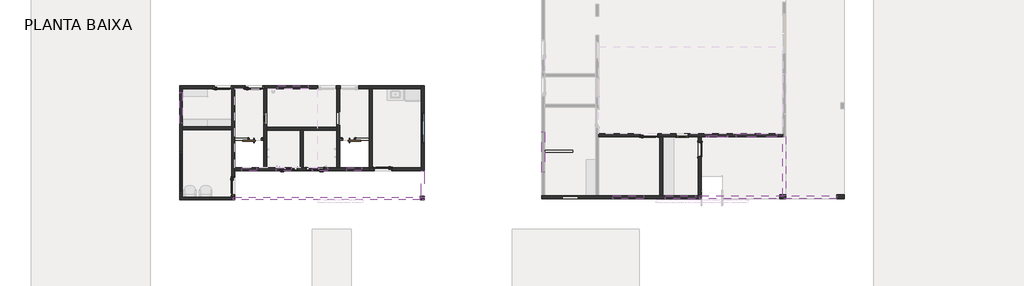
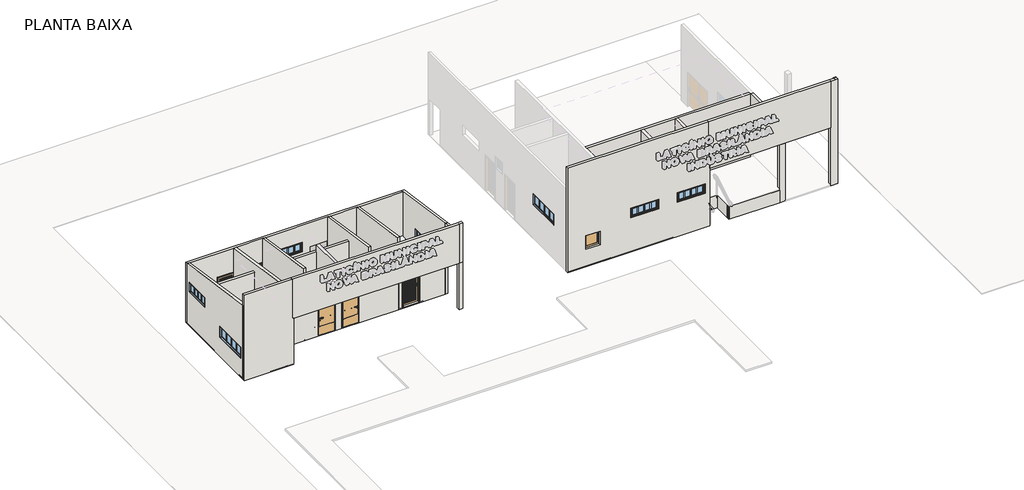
# One storey, part 1 of 4: 32 walls, 14 doors, 12 windows.
"""IFC4 building model written with IfcOpenShell, lengths in millimetres."""

from ifc_helpers import new_model, si_unit, frame, origin, place, context, project, spatial, polyline, outline, extrude, faceted_brep, transform, mapped, element, save
from components import door_47245ebf, see_type_catalog_3550771c, door_0_70x2_10_2_033ef500, door_0_70x2_10_2_77146840, fr_pvc_panneau_plein_103_x_210_100_2_a151caea, fr_pvc_panneau_plein_63_x_210_60_2_2560e39d, fr_pvc_panneau_plein_63_x_210_60_2_9b27eb45, fr_pvc_panneau_plein_83_x_210_80_f0693e7c, p14_porta_interna_pne_0_90x2_10_b06f21c3, p14_porta_interna_pne_0_90x2_10_6fbece7b, window_3d062184, window_6059a996, window_ed8a4b66, window_13409327

model = new_model("IFC4")

# Units and contexts
model_context = context("Model", 3, world=origin())
ifc_project = project(units=[si_unit("LENGTHUNIT", "METRE", prefix="MILLI")], contexts=[model_context])

# Site, building, storey
site = spatial("IfcSite", under=ifc_project)
building = spatial("IfcBuilding", under=site)
storey = spatial("IfcBuildingStorey", under=building, Name="PLANTA BAIXA", Elevation=150.0)

# Doors
placement = place(None, origin())
door_shape = door_47245ebf(model_context)
element("IfcDoor", 1, ObjectType="PORTA VENEZIANA PARAMÉTRICA : .VENEZIANA 90X210 2", at=placement, inside=storey, context=model_context, shape_type="MappedRepresentation", body=[
    mapped(door_shape, transform((1526.8201839, -768.2411617, 150.0), x_axis=(-1.0, 0.0, 0.0), y_axis=(0.0, -1.0, 0.0), z_axis=(0.0, 0.0, 1.0))),
])
element("IfcDoor", 2, ObjectType="PORTA VENEZIANA PARAMÉTRICA : .VENEZIANA 90X210 2", at=placement, inside=storey, context=model_context, shape_type="MappedRepresentation", body=[
    mapped(door_shape, transform((-19648.1798161, -3353.2411617, 150.0), x_axis=(0.0, 1.0, 0.0), y_axis=(-1.0, 0.0, 0.0), z_axis=(0.0, 0.0, 1.0))),
])
element("IfcDoor", 3, ObjectType="PORTA VENEZIANA PARAMÉTRICA : .VENEZIANA 90X210 2", at=placement, inside=storey, context=model_context, shape_type="MappedRepresentation", body=[
    mapped(door_shape, transform((-12023.1798161, -2478.2411617, 150.0), x_axis=(1.0, 0.0, 0.0), y_axis=(0.0, 1.0, 0.0), z_axis=(0.0, 0.0, 1.0))),
])
element("IfcDoor", 4, ObjectType="PORTA VENEZIANA PARAMÉTRICA : VENEZIANA 80X210", at=placement, inside=storey, context=model_context, shape_type="MappedRepresentation", body=[
    mapped(door_shape, transform((-20173.1798161, 1675.6280604, 150.0), x_axis=(-1.0, 0.0, 0.0), y_axis=(0.0, -1.0, 0.0), z_axis=(0.0, 0.0, 1.0))),
])
element("IfcDoor", 5, ObjectType="PORTA VENEZIANA PARAMÉTRICA : VENEZIANA 80X210", at=placement, inside=storey, context=model_context, shape_type="MappedRepresentation", body=[
    mapped(door_shape, transform((-18573.1798161, 1675.6280604, 150.0), x_axis=(-1.0, 0.0, 0.0), y_axis=(0.0, -1.0, 0.0), z_axis=(0.0, 0.0, 1.0))),
])
see_type_catalog_shape = see_type_catalog_3550771c(model_context)
element("IfcDoor", 6, ObjectType="M_Porta-De_Correr-Pormade-Porta_Lisa : (See Type Catalog)", at=placement, inside=storey, context=model_context, shape_type="MappedRepresentation", body=[
    mapped(see_type_catalog_shape, transform((4101.8201839, -1483.2411617, 900.0), x_axis=(0.0, 1.0, 0.0), y_axis=(-1.0, 0.0, 0.0), z_axis=(0.0, 0.0, 1.0))),
])
door_0_70x2_10_2_shape = door_0_70x2_10_2_033ef500(model_context)
element("IfcDoor", 7, ObjectType="Porta de correr com revestimento - 1 Painel com trilho de aço inoxidável : 0.70X2.10 2", at=placement, inside=storey, context=model_context, shape_type="MappedRepresentation", body=[
    mapped(door_0_70x2_10_2_shape, transform((-18523.1798161, -953.2411617, 150.0), x_axis=(-1.0, 0.0, 0.0), y_axis=(0.0, -1.0, 0.0), z_axis=(0.0, 0.0, 1.0))),
])
door_0_70x2_10_2_2_shape = door_0_70x2_10_2_77146840(model_context)
element("IfcDoor", 8, ObjectType="Porta de correr com revestimento - 1 Painel com trilho de aço inoxidável : 0.70X2.10 2", at=placement, inside=storey, context=model_context, shape_type="MappedRepresentation", body=[
    mapped(door_0_70x2_10_2_2_shape, transform((-13773.1798161, -953.2411617, 150.0), x_axis=(1.0, 0.0, 0.0), y_axis=(0.0, 1.0, 0.0), z_axis=(0.0, 0.0, 1.0))),
])
fr_pvc_panneau_plein_103_x_210_100_2_shape = fr_pvc_panneau_plein_103_x_210_100_2_a151caea(model_context)
element("IfcDoor", 9, ObjectType="FR_PVC Panneau Plein : 103 x 210 - (100) 2", at=placement, inside=storey, context=model_context, shape_type="MappedRepresentation", body=[
    mapped(fr_pvc_panneau_plein_103_x_210_100_2_shape, transform((4991.8201839, -764.4475915, 1650.0), x_axis=(1.0, 0.0, 0.0), y_axis=(0.0, 1.0, 0.0), z_axis=(0.0, 0.0, 1.0))),
])
fr_pvc_panneau_plein_63_x_210_60_2_shape = fr_pvc_panneau_plein_63_x_210_60_2_2560e39d(model_context)
element("IfcDoor", 10, ObjectType="FR_PVC Panneau Plein : 63 x 210 - (60) 2", at=placement, inside=storey, context=model_context, shape_type="MappedRepresentation", body=[
    mapped(fr_pvc_panneau_plein_63_x_210_60_2_shape, transform((3211.8201839, -764.4475915, 1150.0), x_axis=(1.0, 0.0, 0.0), y_axis=(0.0, 1.0, 0.0), z_axis=(0.0, 0.0, 1.0))),
])
fr_pvc_panneau_plein_63_x_210_60_2_2_shape = fr_pvc_panneau_plein_63_x_210_60_2_9b27eb45(model_context)
element("IfcDoor", 11, ObjectType="FR_PVC Panneau Plein : 63 x 210 - (60) 2", at=placement, inside=storey, context=model_context, shape_type="MappedRepresentation", body=[
    mapped(fr_pvc_panneau_plein_63_x_210_60_2_2_shape, transform((-17994.3862459, 96.7588383, 950.0), x_axis=(0.0, 1.0, 0.0), y_axis=(-1.0, 0.0, 0.0), z_axis=(0.0, 0.0, 1.0))),
])
fr_pvc_panneau_plein_83_x_210_80_shape = fr_pvc_panneau_plein_83_x_210_80_f0693e7c(model_context)
element("IfcDoor", 12, ObjectType="FR_PVC Panneau Plein : 83 x 210 - (80)", at=placement, inside=storey, context=model_context, shape_type="MappedRepresentation", body=[
    mapped(fr_pvc_panneau_plein_83_x_210_80_shape, transform((-2473.1798161, -3917.0347319, 1150.0), x_axis=(1.0, 0.0, 0.0), y_axis=(0.0, 1.0, 0.0), z_axis=(0.0, 0.0, 1.0))),
])
p14_porta_interna_pne_0_90x2_10_shape = p14_porta_interna_pne_0_90x2_10_b06f21c3(model_context)
element("IfcDoor", 13, ObjectType="porta pne medida interna : P14 - Porta interna PNE 0.90x2.10", at=placement, inside=storey, context=model_context, shape_type="MappedRepresentation", body=[
    mapped(p14_porta_interna_pne_0_90x2_10_shape, transform((-16824.150302, -2478.2411617, 150.0), x_axis=(1.0, 0.0, 0.0), y_axis=(0.0, 1.0, 0.0), z_axis=(0.0, 0.0, 1.0))),
])
p14_porta_interna_pne_0_90x2_10_2_shape = p14_porta_interna_pne_0_90x2_10_6fbece7b(model_context)
element("IfcDoor", 14, ObjectType="porta pne medida interna : P14 - Porta interna PNE 0.90x2.10", at=placement, inside=storey, context=model_context, shape_type="MappedRepresentation", body=[
    mapped(p14_porta_interna_pne_0_90x2_10_2_shape, transform((-15472.2093302, -2478.2411617, 150.0), x_axis=(-1.0, 0.0, 0.0), y_axis=(0.0, -1.0, 0.0), z_axis=(0.0, 0.0, 1.0))),
])

# Walls
element("IfcWall", 15, ObjectType="PAREDE BÁSICA 15 cm REVEST/PINT", at=placement, inside=storey, context=model_context, shape_type="Brep", body=[
    faceted_brep([(-22373.1798161, 1600.6280604, 100.0), (-22223.1798161, 1600.6280604, 100.0), (-19723.1798161, 1600.6280604, 100.0), (-19573.1798161, 1600.6280604, 100.0), (-18073.1798161, 1600.6280604, 100.0), (-17923.1798161, 1600.6280604, 100.0), (-14373.1798161, 1600.6280604, 100.0), (-14223.1798161, 1600.6280604, 100.0), (-12723.1798161, 1600.6280604, 100.0), (-12573.1798161, 1600.6280604, 100.0), (-10073.1798161, 1600.6280604, 100.0), (-10073.1798161, 1600.6280604, 3738.6139791), (-12573.1798161, 1600.6280604, 3738.6139791), (-12723.1798161, 1600.6280604, 3738.6139791), (-14223.1798161, 1600.6280604, 3738.6139791), (-14373.1798161, 1600.6280604, 3738.6139791), (-17923.1798161, 1600.6280604, 3738.6139791), (-18073.1798161, 1600.6280604, 3738.6139791), (-19573.1798161, 1600.6280604, 3738.6139791), (-19723.1798161, 1600.6280604, 3738.6139791), (-22223.1798161, 1600.6280604, 3738.6139791), (-22373.1798161, 1600.6280604, 3738.6139791), (-20648.1798161, 1600.6280604, 130.0), (-20648.1798161, 1600.6280604, 2275.0), (-19698.1798161, 1600.6280604, 2275.0), (-19698.1798161, 1600.6280604, 130.0), (-19048.1798161, 1600.6280604, 130.0), (-19048.1798161, 1600.6280604, 2275.0), (-18098.1798161, 1600.6280604, 2275.0), (-18098.1798161, 1600.6280604, 130.0), (-13248.1798161, 1600.6280604, 130.0), (-14198.1798161, 1600.6280604, 130.0), (-14198.1798161, 1600.6280604, 2275.0), (-13248.1798161, 1600.6280604, 2275.0), (-15348.1798161, 1600.6280604, 130.0), (-15348.1798161, 1600.6280604, 2275.0), (-14398.1798161, 1600.6280604, 2275.0), (-14398.1798161, 1600.6280604, 130.0), (-15813.1798161, 1600.6280604, 2150.0), (-17383.1798161, 1600.6280604, 2150.0), (-17383.1798161, 1600.6280604, 2720.0), (-15813.1798161, 1600.6280604, 2720.0), (-10073.1798161, 1750.6280604, 100.0), (-22373.1798161, 1750.6280604, 100.0), (-22373.1798161, 1750.6280604, 3716.1139791), (-10073.1798161, 1750.6280604, 3716.1139791), (-20648.1798161, 1750.6280604, 2275.0), (-20648.1798161, 1750.6280604, 130.0), (-19698.1798161, 1750.6280604, 130.0), (-19698.1798161, 1750.6280604, 2275.0), (-19048.1798161, 1750.6280604, 130.0), (-18098.1798161, 1750.6280604, 130.0), (-18098.1798161, 1750.6280604, 2275.0), (-19048.1798161, 1750.6280604, 2275.0), (-13248.1798161, 1750.6280604, 130.0), (-13248.1798161, 1750.6280604, 2275.0), (-14198.1798161, 1750.6280604, 2275.0), (-14198.1798161, 1750.6280604, 130.0), (-15348.1798161, 1750.6280604, 130.0), (-14398.1798161, 1750.6280604, 130.0), (-14398.1798161, 1750.6280604, 2275.0), (-15348.1798161, 1750.6280604, 2275.0), (-15813.1798161, 1750.6280604, 2150.0), (-15813.1798161, 1750.6280604, 2720.0), (-17383.1798161, 1750.6280604, 2720.0), (-17383.1798161, 1750.6280604, 2150.0)], [[[0, 1, 2, 3, 4, 5, 6, 7, 8, 9, 10, 11, 12, 13, 14, 15, 16, 17, 18, 19, 20, 21], [22, 23, 24, 25], [26, 27, 28, 29], [30, 31, 32, 33], [34, 35, 36, 37], [38, 39, 40, 41]], [[42, 43, 44, 45], [46, 47, 48, 49], [50, 51, 52, 53], [54, 55, 56, 57], [58, 59, 60, 61], [62, 63, 64, 65]], [[10, 9, 8, 7, 6, 5, 4, 3, 2, 1, 0, 43, 42]], [[11, 10, 42, 45]], [[0, 21, 44, 43]], [[22, 47, 46, 23]], [[23, 46, 49, 24]], [[24, 49, 48, 25]], [[47, 22, 25, 48]], [[27, 26, 50, 53]], [[28, 27, 53, 52]], [[29, 28, 52, 51]], [[26, 29, 51, 50]], [[55, 54, 30, 33]], [[56, 55, 33, 32]], [[57, 56, 32, 31]], [[54, 57, 31, 30]], [[35, 34, 58, 61]], [[36, 35, 61, 60]], [[37, 36, 60, 59]], [[34, 37, 59, 58]], [[63, 62, 38, 41]], [[64, 63, 41, 40]], [[65, 64, 40, 39]], [[62, 65, 39, 38]], [[21, 20, 19, 18, 17, 16, 15, 14, 13, 12, 11, 45, 44]]]),
])
element("IfcWall", 16, ObjectType="PAREDE BÁSICA 15 cm", at=placement, inside=storey, context=model_context, shape_type="Brep", body=[
    faceted_brep([(-9923.1798161, -2553.2411617, 4361.6943624), (-9923.1798161, -2553.2411617, 2900.0), (-9923.1798161, -2553.2411617, 100.0), (-9923.1798161, 1750.6280604, 100.0), (-9923.1798161, 1750.6280604, 3716.1139791), (-9923.1798161, -1154.3719396, 1250.0), (-9923.1798161, -1154.3719396, 2250.0), (-9923.1798161, 395.6280604, 2250.0), (-9923.1798161, 395.6280604, 1250.0), (-10073.1798161, -2553.2411617, 100.0), (-10073.1798161, -2553.2411617, 2900.0), (-10073.1798161, -2553.2411617, 4000.0), (-10073.1798161, -2553.2411617, 4361.6943624), (-10073.1798161, 1600.6280604, 3738.6139791), (-10073.1798161, 1750.6280604, 3716.1139791), (-10073.1798161, 1750.6280604, 100.0), (-10073.1798161, 1600.6280604, 100.0), (-10073.1798161, -2403.2411617, 100.0), (-10073.1798161, -1154.3719396, 1250.0), (-10073.1798161, 395.6280604, 1250.0), (-10073.1798161, 395.6280604, 2250.0), (-10073.1798161, -1154.3719396, 2250.0)], [[[0, 1, 2, 3, 4], [5, 6, 7, 8]], [[9, 10, 11, 12, 13, 14, 15, 16, 17], [18, 19, 20, 21]], [[3, 2, 9, 17, 16, 15]], [[4, 3, 15, 14]], [[6, 5, 18, 21]], [[7, 6, 21, 20]], [[8, 7, 20, 19]], [[5, 8, 19, 18]], [[0, 12, 11, 10, 9, 2, 1]], [[0, 4, 14, 13, 12]]]),
])
element("IfcWall", 17, ObjectType="PAREDE BÁSICA 15 cm", at=placement, inside=storey, context=model_context, shape_type="Brep", body=[
    faceted_brep([(-10073.1798161, -2403.2411617, 4000.0), (-10073.1798161, -2403.2411617, 100.0), (-12573.1798161, -2403.2411617, 100.0), (-12723.1798161, -2403.2411617, 100.0), (-12723.1798161, -2403.2411617, 3550.0), (-12723.1798161, -2403.2411617, 4000.0), (-11548.1798161, -2403.2411617, 130.0), (-11548.1798161, -2403.2411617, 2275.0), (-12498.1798161, -2403.2411617, 2275.0), (-12498.1798161, -2403.2411617, 130.0), (-10073.1798161, -2553.2411617, 100.0), (-10073.1798161, -2553.2411617, 4000.0), (-12723.1798161, -2553.2411617, 4000.0), (-12723.1798161, -2553.2411617, 3550.0), (-12723.1798161, -2553.2411617, 100.0), (-11548.1798161, -2553.2411617, 130.0), (-12498.1798161, -2553.2411617, 130.0), (-12498.1798161, -2553.2411617, 2275.0), (-11548.1798161, -2553.2411617, 2275.0)], [[[0, 1, 2, 3, 4, 5], [6, 7, 8, 9]], [[10, 11, 12, 13, 14], [15, 16, 17, 18]], [[3, 2, 1, 10, 14]], [[0, 5, 12, 11]], [[0, 11, 10, 1]], [[3, 14, 13, 12, 5, 4]], [[7, 6, 15, 18]], [[8, 7, 18, 17]], [[9, 8, 17, 16]], [[6, 9, 16, 15]]]),
])
element("IfcWall", 18, ObjectType="PAREDE BÁSICA 15 cm", at=placement, inside=storey, context=model_context, shape_type="Brep", body=[
    faceted_brep([(-12573.1798161, -2403.2411617, 100.0), (-12573.1798161, 1600.6280604, 100.0), (-12573.1798161, 1600.6280604, 3738.6139791), (-12573.1798161, -2403.2411617, 4339.1943624), (-12723.1798161, -2403.2411617, 100.0), (-12723.1798161, -2403.2411617, 4000.0), (-12723.1798161, -2403.2411617, 4339.1943624), (-12723.1798161, 1600.6280604, 3738.6139791), (-12723.1798161, 1600.6280604, 100.0), (-12723.1798161, -903.2411617, 100.0), (-12723.1798161, -1003.2411617, 100.0)], [[[0, 1, 2, 3]], [[4, 5, 6, 7, 8, 9, 10]], [[1, 0, 4, 10, 9, 8]], [[0, 3, 6, 5, 4]], [[2, 1, 8, 7]], [[3, 2, 7, 6]]]),
])
element("IfcWall", 19, ObjectType="PAREDE BÁSICA 15 cm", at=placement, inside=storey, context=model_context, shape_type="Brep", body=[
    faceted_brep([(-19723.1798161, 1600.6280604, 100.0), (-19723.1798161, -328.2411617, 100.0), (-19723.1798161, -478.2411617, 100.0), (-19723.1798161, -3903.2411617, 100.0), (-19723.1798161, -3903.2411617, 4564.1943624), (-19723.1798161, 1600.6280604, 3738.6139791), (-19723.1798161, -2878.2411617, 130.0), (-19723.1798161, -2878.2411617, 2275.0), (-19723.1798161, -3828.2411617, 2275.0), (-19723.1798161, -3828.2411617, 130.0), (-19573.1798161, 1600.6280604, 100.0), (-19573.1798161, 1600.6280604, 3738.6139791), (-19573.1798161, -3903.2411617, 4564.1943624), (-19573.1798161, -3903.2411617, 2900.0), (-19573.1798161, -3903.2411617, 100.0), (-19573.1798161, -2553.2411617, 100.0), (-19573.1798161, -2403.2411617, 100.0), (-19573.1798161, -1003.2411617, 100.0), (-19573.1798161, -903.2411617, 100.0), (-19573.1798161, -2878.2411617, 130.0), (-19573.1798161, -3828.2411617, 130.0), (-19573.1798161, -3828.2411617, 2275.0), (-19573.1798161, -2878.2411617, 2275.0)], [[[0, 1, 2, 3, 4, 5], [6, 7, 8, 9]], [[10, 11, 12, 13, 14, 15, 16, 17, 18], [19, 20, 21, 22]], [[3, 2, 1, 0, 10, 18, 17, 16, 15, 14]], [[0, 5, 11, 10]], [[3, 14, 13, 12, 4]], [[7, 6, 19, 22]], [[8, 7, 22, 21]], [[9, 8, 21, 20]], [[6, 9, 20, 19]], [[5, 4, 12, 11]]]),
])
element("IfcWall", 20, ObjectType="PAREDE BÁSICA 15 cm", at=placement, inside=storey, context=model_context, shape_type="Brep", body=[
    faceted_brep([(-19573.1798161, -3903.2411617, 100.0), (-19723.1798161, -3903.2411617, 100.0), (-22223.1798161, -3903.2411617, 100.0), (-22373.1798161, -3903.2411617, 100.0), (-22373.1798161, -3903.2411617, 4564.1943624), (-22373.1798161, -3903.2411617, 5250.0), (-19648.1798161, -3903.2411617, 5250.0), (-19648.1798161, -3903.2411617, 2900.0), (-19573.1798161, -3903.2411617, 2900.0), (-19573.1798161, -4053.2411617, 100.0), (-19573.1798161, -4053.2411617, 2900.0), (-19648.1798161, -4053.2411617, 2900.0), (-19648.1798161, -4053.2411617, 5250.0), (-22373.1798161, -4053.2411617, 5250.0), (-22373.1798161, -4053.2411617, 100.0)], [[[0, 1, 2, 3, 4, 5, 6, 7, 8]], [[9, 10, 11, 12, 13, 14]], [[3, 2, 1, 0, 9, 14]], [[6, 5, 13, 12]], [[5, 4, 3, 14, 13]], [[7, 11, 10, 8]], [[6, 12, 11, 7]], [[0, 8, 10, 9]]]),
])
element("IfcWall", 21, ObjectType="PAREDE BÁSICA 15 cm", at=placement, inside=storey, context=model_context, shape_type="Brep", body=[
    faceted_brep([(-22223.1798161, -3903.2411617, 100.0), (-22223.1798161, -478.2411617, 100.0), (-22223.1798161, -328.2411617, 100.0), (-22223.1798161, 1600.6280604, 100.0), (-22223.1798161, 1600.6280604, 3738.6139791), (-22223.1798161, -3903.2411617, 4564.1943624), (-22223.1798161, -3703.2411617, 1250.0), (-22223.1798161, -3703.2411617, 1920.0), (-22223.1798161, -1633.2411617, 1920.0), (-22223.1798161, -1633.2411617, 1250.0), (-22223.1798161, -151.3065507, 2150.0), (-22223.1798161, -151.3065507, 2720.0), (-22223.1798161, 1418.6934493, 2720.0), (-22223.1798161, 1418.6934493, 2150.0), (-22373.1798161, -3903.2411617, 100.0), (-22373.1798161, -3903.2411617, 4564.1943624), (-22373.1798161, 1600.6280604, 3738.6139791), (-22373.1798161, 1600.6280604, 100.0), (-22373.1798161, -3703.2411617, 1250.0), (-22373.1798161, -1633.2411617, 1250.0), (-22373.1798161, -1633.2411617, 1920.0), (-22373.1798161, -3703.2411617, 1920.0), (-22373.1798161, -151.3065507, 2150.0), (-22373.1798161, 1418.6934493, 2150.0), (-22373.1798161, 1418.6934493, 2720.0), (-22373.1798161, -151.3065507, 2720.0)], [[[0, 1, 2, 3, 4, 5], [6, 7, 8, 9], [10, 11, 12, 13]], [[14, 15, 16, 17], [18, 19, 20, 21], [22, 23, 24, 25]], [[3, 2, 1, 0, 14, 17]], [[4, 3, 17, 16]], [[0, 5, 15, 14]], [[7, 6, 18, 21]], [[8, 7, 21, 20]], [[9, 8, 20, 19]], [[6, 9, 19, 18]], [[11, 10, 22, 25]], [[12, 11, 25, 24]], [[13, 12, 24, 23]], [[10, 13, 23, 22]], [[5, 4, 16, 15]]]),
])
element("IfcWall", 22, ObjectType="PAREDE BÁSICA 15 cm", at=placement, inside=storey, context=model_context, shape_type="Brep", body=[
    faceted_brep([(-19573.1798161, -2553.2411617, 100.0), (-12723.1798161, -2553.2411617, 100.0), (-12723.1798161, -2553.2411617, 3550.0), (-19573.1798161, -2553.2411617, 3550.0), (-16344.150302, -2553.2411617, 150.0), (-17304.150302, -2553.2411617, 150.0), (-17304.150302, -2553.2411617, 2280.0), (-16344.150302, -2553.2411617, 2280.0), (-13858.1798161, -2553.2411617, 2350.0), (-13858.1798161, -2553.2411617, 2920.0), (-13088.1798161, -2553.2411617, 2920.0), (-13088.1798161, -2553.2411617, 2350.0), (-18438.1798161, -2553.2411617, 2350.0), (-19208.1798161, -2553.2411617, 2350.0), (-19208.1798161, -2553.2411617, 2920.0), (-18438.1798161, -2553.2411617, 2920.0), (-17458.1798161, -2553.2411617, 2350.0), (-17458.1798161, -2553.2411617, 2920.0), (-16688.1798161, -2553.2411617, 2920.0), (-16688.1798161, -2553.2411617, 2350.0), (-14838.1798161, -2553.2411617, 2350.0), (-15608.1798161, -2553.2411617, 2350.0), (-15608.1798161, -2553.2411617, 2920.0), (-14838.1798161, -2553.2411617, 2920.0), (-15952.2093302, -2553.2411617, 150.0), (-15952.2093302, -2553.2411617, 2280.0), (-14992.2093302, -2553.2411617, 2280.0), (-14992.2093302, -2553.2411617, 150.0), (-19573.1798161, -2403.2411617, 100.0), (-19573.1798161, -2403.2411617, 3550.0), (-12723.1798161, -2403.2411617, 3550.0), (-12723.1798161, -2403.2411617, 100.0), (-14223.1798161, -2403.2411617, 100.0), (-14373.1798161, -2403.2411617, 100.0), (-16073.1798161, -2403.2411617, 100.0), (-16223.1798161, -2403.2411617, 100.0), (-17923.1798161, -2403.2411617, 100.0), (-18073.1798161, -2403.2411617, 100.0), (-16344.150302, -2403.2411617, 150.0), (-16344.150302, -2403.2411617, 2280.0), (-17304.150302, -2403.2411617, 2280.0), (-17304.150302, -2403.2411617, 150.0), (-13858.1798161, -2403.2411617, 2350.0), (-13088.1798161, -2403.2411617, 2350.0), (-13088.1798161, -2403.2411617, 2920.0), (-13858.1798161, -2403.2411617, 2920.0), (-18438.1798161, -2403.2411617, 2350.0), (-18438.1798161, -2403.2411617, 2920.0), (-19208.1798161, -2403.2411617, 2920.0), (-19208.1798161, -2403.2411617, 2350.0), (-17458.1798161, -2403.2411617, 2350.0), (-16688.1798161, -2403.2411617, 2350.0), (-16688.1798161, -2403.2411617, 2920.0), (-17458.1798161, -2403.2411617, 2920.0), (-14838.1798161, -2403.2411617, 2350.0), (-14838.1798161, -2403.2411617, 2920.0), (-15608.1798161, -2403.2411617, 2920.0), (-15608.1798161, -2403.2411617, 2350.0), (-15952.2093302, -2403.2411617, 150.0), (-14992.2093302, -2403.2411617, 150.0), (-14992.2093302, -2403.2411617, 2280.0), (-15952.2093302, -2403.2411617, 2280.0)], [[[0, 1, 2, 3], [4, 5, 6, 7], [8, 9, 10, 11], [12, 13, 14, 15], [16, 17, 18, 19], [20, 21, 22, 23], [24, 25, 26, 27]], [[28, 29, 30, 31, 32, 33, 34, 35, 36, 37], [38, 39, 40, 41], [42, 43, 44, 45], [46, 47, 48, 49], [50, 51, 52, 53], [54, 55, 56, 57], [58, 59, 60, 61]], [[1, 0, 28, 37, 36, 35, 34, 33, 32, 31]], [[3, 2, 30, 29]], [[2, 1, 31, 30]], [[0, 3, 29, 28]], [[39, 38, 4, 7]], [[40, 39, 7, 6]], [[41, 40, 6, 5]], [[38, 41, 5, 4]], [[9, 8, 42, 45]], [[10, 9, 45, 44]], [[11, 10, 44, 43]], [[8, 11, 43, 42]], [[47, 46, 12, 15]], [[48, 47, 15, 14]], [[49, 48, 14, 13]], [[46, 49, 13, 12]], [[17, 16, 50, 53]], [[18, 17, 53, 52]], [[19, 18, 52, 51]], [[16, 19, 51, 50]], [[55, 54, 20, 23]], [[56, 55, 23, 22]], [[57, 56, 22, 21]], [[54, 57, 21, 20]], [[25, 24, 58, 61]], [[26, 25, 61, 60]], [[27, 26, 60, 59]], [[24, 27, 59, 58]]]),
])
element("IfcWall", 23, ObjectType="PAREDE BÁSICA 15 cm", at=placement, inside=storey, context=model_context, shape_type="SweptSolid", body=[
    extrude(outline(polyline([(2226.8201839, -843.2411617), (2226.8201839, -3838.2411617), (2076.8201839, -3838.2411617), (2076.8201839, -843.2411617), (2226.8201839, -843.2411617)])), frame((0.0, 0.0, 100.0), z_axis=(0.0, 0.0, 1.0), x_axis=(1.0, 0.0, 0.0)), (0.0, 0.0, 1.0), 4600.0),
])
element("IfcWall", 24, ObjectType="PAREDE BÁSICA 15 cm", at=placement, inside=storey, context=model_context, shape_type="Brep", body=[
    faceted_brep([(-3923.1798161, -3988.2411617, 100.0), (4176.8201839, -3988.2411617, 100.0), (4176.8201839, -3988.2411617, 4700.0), (4101.8201839, -3988.2411617, 4700.0), (4101.8201839, -3988.2411617, 6400.0), (-3923.1798161, -3988.2411617, 6400.0), (1261.8201839, -3988.2411617, 2720.0), (1261.8201839, -3988.2411617, 2150.0), (-308.1798161, -3988.2411617, 2150.0), (-308.1798161, -3988.2411617, 2720.0), (2341.8201839, -3988.2411617, 2150.0), (2341.8201839, -3988.2411617, 2720.0), (3911.8201839, -3988.2411617, 2720.0), (3911.8201839, -3988.2411617, 2150.0), (-2883.1798161, -3988.2411617, 1960.0), (-2063.1798161, -3988.2411617, 1960.0), (-2063.1798161, -3988.2411617, 1150.0), (-2883.1798161, -3988.2411617, 1150.0), (4176.8201839, -3838.2411617, 100.0), (4026.8201839, -3838.2411617, 100.0), (2226.8201839, -3838.2411617, 100.0), (2076.8201839, -3838.2411617, 100.0), (-1023.1798161, -3838.2411617, 100.0), (-1173.1798161, -3838.2411617, 100.0), (-3773.1798161, -3838.2411617, 100.0), (-3923.1798161, -3838.2411617, 100.0), (-3923.1798161, -3838.2411617, 5040.0657477), (-3923.1798161, -3838.2411617, 6400.0), (4101.8201839, -3838.2411617, 6400.0), (4101.8201839, -3838.2411617, 4700.0), (4176.8201839, -3838.2411617, 4700.0), (4176.8201839, -3838.2411617, 3580.0), (1261.8201839, -3838.2411617, 2150.0), (1261.8201839, -3838.2411617, 2720.0), (-308.1798161, -3838.2411617, 2720.0), (-308.1798161, -3838.2411617, 2150.0), (2341.8201839, -3838.2411617, 2720.0), (2341.8201839, -3838.2411617, 2150.0), (3911.8201839, -3838.2411617, 2150.0), (3911.8201839, -3838.2411617, 2720.0), (-2063.1798161, -3838.2411617, 1150.0), (-2023.1798161, -3838.2411617, 1150.0), (-2023.1798161, -3838.2411617, 2000.0), (-2923.1798161, -3838.2411617, 2000.0), (-2923.1798161, -3838.2411617, 1150.0), (-2883.1798161, -3838.2411617, 1150.0), (-2883.1798161, -3888.2411617, 1960.0), (-2063.1798161, -3888.2411617, 1960.0), (-2063.1798161, -3888.2411617, 1150.0), (-2023.1798161, -3888.2411617, 1150.0), (-2923.1798161, -3888.2411617, 1150.0), (-2883.1798161, -3888.2411617, 1150.0), (-2923.1798161, -3888.2411617, 2000.0), (-2023.1798161, -3888.2411617, 2000.0)], [[[0, 1, 2, 3, 4, 5], [6, 7, 8, 9], [10, 11, 12, 13], [14, 15, 16, 17]], [[18, 19, 20, 21, 22, 23, 24, 25, 26, 27, 28, 29, 30, 31], [32, 33, 34, 35], [36, 37, 38, 39], [40, 41, 42, 43, 44, 45]], [[1, 0, 25, 24, 23, 22, 21, 20, 19, 18]], [[5, 4, 28, 27]], [[0, 5, 27, 26, 25]], [[33, 32, 7, 6]], [[34, 33, 6, 9]], [[35, 34, 9, 8]], [[32, 35, 8, 7]], [[11, 10, 37, 36]], [[12, 11, 36, 39]], [[13, 12, 39, 38]], [[10, 13, 38, 37]], [[28, 4, 3, 29]], [[29, 3, 2, 30]], [[1, 18, 31, 30, 2]], [[46, 47, 15, 14]], [[48, 49, 41, 40, 45, 44, 50, 51, 17, 16]], [[51, 46, 14, 17]], [[47, 48, 16, 15]], [[50, 44, 43, 52]], [[47, 46, 51, 50, 52, 53, 49, 48]], [[52, 43, 42, 53]], [[41, 49, 53, 42]]]),
])
element("IfcWall", 25, ObjectType="PAREDE BÁSICA 15 cm", at=placement, inside=storey, context=model_context, shape_type="Brep", body=[
    faceted_brep([(4176.8201839, -3838.2411617, 4700.0), (4176.8201839, -3838.2411617, 100.0), (4176.8201839, -2833.2411617, 100.0), (4176.8201839, -2683.2411617, 100.0), (4176.8201839, -843.2411617, 100.0), (4176.8201839, -843.2411617, 4700.0), (4176.8201839, -1083.2411617, 900.0), (4176.8201839, -1883.2411617, 900.0), (4176.8201839, -1883.2411617, 3060.0), (4176.8201839, -1083.2411617, 3060.0), (4026.8201839, -3838.2411617, 100.0), (4026.8201839, -3838.2411617, 4700.0), (4026.8201839, -843.2411617, 4700.0), (4026.8201839, -843.2411617, 100.0), (4026.8201839, -1083.2411617, 900.0), (4026.8201839, -1083.2411617, 3060.0), (4026.8201839, -1883.2411617, 3060.0), (4026.8201839, -1883.2411617, 900.0), (4101.8201839, -3838.2411617, 4700.0)], [[[0, 1, 2, 3, 4, 5], [6, 7, 8, 9]], [[10, 11, 12, 13], [14, 15, 16, 17]], [[4, 3, 2, 1, 10, 13]], [[0, 5, 12, 11, 18]], [[5, 4, 13, 12]], [[15, 14, 6, 9]], [[16, 15, 9, 8]], [[17, 16, 8, 7]], [[14, 17, 7, 6]], [[0, 18, 11, 10, 1]]]),
])
element("IfcWall", 26, ObjectType="PAREDE BÁSICA 15 cm", at=placement, inside=storey, context=model_context, shape_type="Brep", body=[
    faceted_brep([(8325.8682467, -693.2411617, 100.0), (-1023.1798161, -693.2411617, 100.0), (-1023.1798161, -693.2411617, 4700.0), (8325.8682467, -693.2411617, 4700.0), (1051.8201839, -693.2411617, 2275.0), (1051.8201839, -693.2411617, 130.0), (2001.8201839, -693.2411617, 130.0), (2001.8201839, -693.2411617, 2275.0), (5955.8682467, -693.2411617, 2820.0), (5955.8682467, -693.2411617, 2150.0), (8025.8682467, -693.2411617, 2150.0), (8025.8682467, -693.2411617, 2820.0), (5501.8201839, -693.2411617, 2460.0), (4481.8201839, -693.2411617, 2460.0), (4481.8201839, -693.2411617, 1650.0), (5501.8201839, -693.2411617, 1650.0), (3521.8201839, -693.2411617, 1960.0), (2901.8201839, -693.2411617, 1960.0), (2901.8201839, -693.2411617, 1150.0), (3521.8201839, -693.2411617, 1150.0), (-1023.1798161, -843.2411617, 100.0), (2076.8201839, -843.2411617, 100.0), (2226.8201839, -843.2411617, 100.0), (4026.8201839, -843.2411617, 100.0), (4176.8201839, -843.2411617, 100.0), (8325.8682467, -843.2411617, 100.0), (8325.8682467, -843.2411617, 4700.0), (4176.8201839, -843.2411617, 4700.0), (4026.8201839, -843.2411617, 4700.0), (2226.8201839, -843.2411617, 4700.0), (2076.8201839, -843.2411617, 4700.0), (-1023.1798161, -843.2411617, 4700.0), (1051.8201839, -843.2411617, 130.0), (1051.8201839, -843.2411617, 2275.0), (2001.8201839, -843.2411617, 2275.0), (2001.8201839, -843.2411617, 130.0), (5955.8682467, -843.2411617, 2150.0), (5955.8682467, -843.2411617, 2820.0), (8025.8682467, -843.2411617, 2820.0), (8025.8682467, -843.2411617, 2150.0), (4481.8201839, -843.2411617, 1650.0), (4441.8201839, -843.2411617, 1650.0), (4441.8201839, -843.2411617, 2500.0), (5541.8201839, -843.2411617, 2500.0), (5541.8201839, -843.2411617, 1650.0), (5501.8201839, -843.2411617, 1650.0), (2901.8201839, -843.2411617, 1150.0), (2861.8201839, -843.2411617, 1150.0), (2861.8201839, -843.2411617, 2000.0), (3561.8201839, -843.2411617, 2000.0), (3561.8201839, -843.2411617, 1150.0), (3521.8201839, -843.2411617, 1150.0), (5501.8201839, -793.2411617, 2460.0), (4481.8201839, -793.2411617, 2460.0), (4481.8201839, -793.2411617, 1650.0), (4441.8201839, -793.2411617, 1650.0), (5541.8201839, -793.2411617, 1650.0), (5501.8201839, -793.2411617, 1650.0), (4441.8201839, -793.2411617, 2500.0), (5541.8201839, -793.2411617, 2500.0), (3521.8201839, -793.2411617, 1960.0), (2901.8201839, -793.2411617, 1960.0), (2901.8201839, -793.2411617, 1150.0), (2861.8201839, -793.2411617, 1150.0), (3561.8201839, -793.2411617, 1150.0), (3521.8201839, -793.2411617, 1150.0), (2861.8201839, -793.2411617, 2000.0), (3561.8201839, -793.2411617, 2000.0)], [[[0, 1, 2, 3], [4, 5, 6, 7], [8, 9, 10, 11], [12, 13, 14, 15], [16, 17, 18, 19]], [[20, 21, 22, 23, 24, 25, 26, 27, 28, 29, 30, 31], [32, 33, 34, 35], [36, 37, 38, 39], [40, 41, 42, 43, 44, 45], [46, 47, 48, 49, 50, 51]], [[1, 0, 25, 24, 23, 22, 21, 20]], [[3, 2, 31, 30, 29, 28, 27, 26]], [[2, 1, 20, 31]], [[33, 32, 5, 4]], [[34, 33, 4, 7]], [[35, 34, 7, 6]], [[32, 35, 6, 5]], [[37, 36, 9, 8]], [[38, 37, 8, 11]], [[39, 38, 11, 10]], [[36, 39, 10, 9]], [[52, 53, 13, 12]], [[54, 55, 41, 40, 45, 44, 56, 57, 15, 14]], [[53, 54, 14, 13]], [[57, 52, 12, 15]], [[41, 55, 58, 42]], [[53, 52, 57, 56, 59, 58, 55, 54]], [[42, 58, 59, 43]], [[56, 44, 43, 59]], [[60, 61, 17, 16]], [[62, 63, 47, 46, 51, 50, 64, 65, 19, 18]], [[61, 62, 18, 17]], [[65, 60, 16, 19]], [[47, 63, 66, 48]], [[61, 60, 65, 64, 67, 66, 63, 62]], [[48, 66, 67, 49]], [[64, 50, 49, 67]], [[3, 26, 25, 0]]]),
])
element("IfcWall", 27, ObjectType=".PAREDE BÁSICA 20 cm 2", at=placement, inside=storey, context=model_context, shape_type="Brep", body=[
    faceted_brep([(8175.8682467, -3988.2411617, 100.0), (8475.8682467, -3988.2411617, 100.0), (8475.8682467, -3988.2411617, 3580.0), (8175.8682467, -3988.2411617, 3580.0), (8175.8682467, -3988.2411617, 850.0), (8175.8682467, -3788.2411617, 100.0), (8175.8682467, -3788.2411617, 3580.0), (8475.8682467, -3788.2411617, 3580.0), (8475.8682467, -3788.2411617, 850.0), (8475.8682467, -3788.2411617, 100.0), (8325.8682467, -3788.2411617, 100.0), (8175.8682467, -3838.2411617, 100.0)], [[[0, 1, 2, 3, 4]], [[5, 6, 7, 8, 9, 10]], [[1, 0, 11, 5, 10, 9]], [[0, 4, 3, 6, 5, 11]], [[2, 1, 9, 8, 7]], [[3, 2, 7, 6]]]),
])
element("IfcWall", 28, ObjectType=".PAREDE BÁSICA 20 cm 2", at=placement, inside=storey, context=model_context, shape_type="Brep", body=[
    faceted_brep([(11083.1602892, -3988.2411617, 100.0), (11476.8201839, -3988.2411617, 100.0), (11476.8201839, -3988.2411617, 6400.0), (11326.8201839, -3988.2411617, 6400.0), (11083.1602892, -3988.2411617, 6400.0), (11083.1602892, -3788.2411617, 100.0), (11083.1602892, -3788.2411617, 5101.5489842), (11326.8201839, -3788.2411617, 5065.0), (11326.8201839, -3788.2411617, 6400.0), (11476.8201839, -3788.2411617, 6400.0), (11476.8201839, -3788.2411617, 5050.0), (11476.8201839, -3788.2411617, 3950.0), (11476.8201839, -3788.2411617, 100.0), (11083.1602892, -3838.2411617, 6400.0), (11083.1602892, -3838.2411617, 5101.5489842), (11326.8201839, -3838.2411617, 6400.0), (11326.8201839, -3838.2411617, 5065.0), (11476.8201839, -3838.2411617, 6400.0)], [[[0, 1, 2, 3, 4]], [[5, 6, 7, 8, 9, 10, 11, 12]], [[1, 0, 5, 12]], [[0, 4, 13, 14, 6, 5]], [[15, 8, 7, 16]], [[4, 3, 15, 13]], [[13, 15, 16, 14]], [[17, 9, 8, 15]], [[3, 2, 17, 15]], [[16, 7, 6, 14]], [[2, 1, 12, 11, 10, 9, 17]]]),
])
element("IfcWall", 29, ObjectType="PAREDE BÁSICA 15 cm", at=placement, inside=storey, context=model_context, shape_type="Brep", body=[
    faceted_brep([(-10129.232617, -4053.2411617, 2900.0), (-9923.1798161, -4053.2411617, 2900.0), (-9923.1798161, -4053.2411617, 5250.0), (-10129.232617, -4053.2411617, 5250.0), (-10129.232617, -3903.2411617, 2900.0), (-10129.232617, -3903.2411617, 5250.0), (-9923.1798161, -3903.2411617, 5250.0), (-9923.1798161, -3903.2411617, 4564.1943624), (-9923.1798161, -3903.2411617, 2900.0), (-10073.1798161, -3903.2411617, 2900.0)], [[[0, 1, 2, 3]], [[4, 5, 6, 7, 8, 9]], [[1, 0, 4, 9, 8]], [[3, 2, 6, 5]], [[0, 3, 5, 4]], [[2, 1, 8, 7, 6]]]),
])
element("IfcWall", 30, ObjectType="PAREDE BÁSICA 15 cm", at=placement, inside=storey, context=model_context, shape_type="SweptSolid", body=[
    extrude(outline(polyline([(8325.8682467, -3788.2411617), (8325.8682467, -843.2411617), (8475.8682467, -843.2411617), (8475.8682467, -3788.2411617), (8325.8682467, -3788.2411617)])), frame((0.0, 0.0, 100.0), z_axis=(0.0, 0.0, 1.0), x_axis=(1.0, 0.0, 0.0)), (0.0, 0.0, 1.0), 750.0),
])
element("IfcWall", 31, ObjectType="PAREDE BÁSICA 15 cm", at=placement, inside=storey, context=model_context, shape_type="Brep", body=[
    faceted_brep([(8175.8682467, -3838.2411617, 100.0), (5426.8201839, -3838.2411617, 100.0), (5276.8201839, -3838.2411617, 100.0), (5276.8201839, -3838.2411617, 850.0), (5426.8201839, -3838.2411617, 850.0), (8175.8682467, -3838.2411617, 850.0), (8175.8682467, -3988.2411617, 100.0), (8175.8682467, -3988.2411617, 850.0), (5276.8201839, -3988.2411617, 850.0), (5276.8201839, -3988.2411617, 100.0)], [[[0, 1, 2, 3, 4, 5]], [[6, 7, 8, 9]], [[2, 1, 0, 6, 9]], [[0, 5, 7, 6]], [[5, 4, 3, 8, 7]], [[3, 2, 9, 8]]]),
])
element("IfcWall", 32, ObjectType="PAREDE BÁSICA 15 cm", at=placement, inside=storey, context=model_context, shape_type="Brep", body=[
    faceted_brep([(-19648.1798161, -4053.2411617, 5250.0), (-19648.1798161, -4053.2411617, 2900.0), (-19573.1798161, -4053.2411617, 2900.0), (-10129.232617, -4053.2411617, 2900.0), (-10129.232617, -4053.2411617, 5250.0), (-19648.1798161, -3903.2411617, 2900.0), (-19648.1798161, -3903.2411617, 5250.0), (-10129.232617, -3903.2411617, 5250.0), (-10129.232617, -3903.2411617, 2900.0), (-19573.1798161, -3903.2411617, 2900.0)], [[[0, 1, 2, 3, 4]], [[5, 6, 7, 8, 9]], [[3, 2, 1, 5, 9, 8]], [[4, 3, 8, 7]], [[0, 4, 7, 6]], [[0, 6, 5, 1]]]),
])
element("IfcWall", 33, ObjectType="PAREDE BÁSICA 15 cm", at=placement, inside=storey, context=model_context, shape_type="SweptSolid", body=[
    extrude(outline(polyline([(-3903.2411617, 2900.0), (-3903.2411617, 4564.1943624), (-2553.2411617, 4361.6943624), (-2553.2411617, 2900.0), (-3903.2411617, 2900.0)])), frame((-10073.1798161, 0.0, 0.0), z_axis=(1.0, 0.0, 0.0), x_axis=(0.0, 1.0, 0.0)), (0.0, 0.0, 1.0), 150.0),
])
element("IfcWall", 34, ObjectType=".PAREDE BÁSICA 20 cm 2", at=placement, inside=storey, context=model_context, shape_type="Brep", body=[
    faceted_brep([(-10129.232617, -4053.2411617, 2900.0), (-10129.232617, -4053.2411617, 100.0), (-9923.1798161, -4053.2411617, 100.0), (-9923.1798161, -4053.2411617, 2900.0), (-10129.232617, -3853.2411617, 100.0), (-10129.232617, -3853.2411617, 2900.0), (-9923.1798161, -3853.2411617, 2900.0), (-9923.1798161, -3853.2411617, 100.0), (-10129.232617, -3903.2411617, 2900.0)], [[[0, 1, 2, 3]], [[4, 5, 6, 7]], [[2, 1, 4, 7]], [[3, 2, 7, 6]], [[0, 8, 5, 4, 1]], [[0, 3, 6, 5, 8]]]),
])
element("IfcWall", 35, ObjectType="PAREDE BÁSICA 15 cm", at=placement, inside=storey, context=model_context, shape_type="Brep", body=[
    faceted_brep([(4176.8201839, -3988.2411617, 3580.0), (11083.1602892, -3988.2411617, 3580.0), (11083.1602892, -3988.2411617, 6400.0), (4101.8201839, -3988.2411617, 6400.0), (4101.8201839, -3988.2411617, 4700.0), (4176.8201839, -3988.2411617, 4700.0), (4176.8201839, -3838.2411617, 3580.0), (4176.8201839, -3838.2411617, 4700.0), (4101.8201839, -3838.2411617, 4700.0), (4101.8201839, -3838.2411617, 6400.0), (11083.1602892, -3838.2411617, 6400.0), (11083.1602892, -3838.2411617, 5101.5489842), (11083.1602892, -3838.2411617, 3580.0)], [[[0, 1, 2, 3, 4, 5]], [[6, 7, 8, 9, 10, 11, 12]], [[1, 0, 6, 12]], [[2, 1, 12, 11, 10]], [[3, 2, 10, 9]], [[4, 3, 9, 8]], [[4, 8, 7, 5]], [[0, 5, 7, 6]]]),
])
element("IfcWall", 36, ObjectType="PAREDE BÁSICA 15 cm", at=placement, inside=storey, context=model_context, shape_type="SweptSolid", body=[
    extrude(outline(polyline([(8475.8682467, -843.2411617), (8475.8682467, -3838.2411617), (8325.8682467, -3838.2411617), (8325.8682467, -843.2411617), (8475.8682467, -843.2411617)])), frame((0.0, 0.0, 3650.0), z_axis=(0.0, 0.0, 1.0), x_axis=(1.0, 0.0, 0.0)), (0.0, 0.0, 1.0), 1050.0),
])
element("IfcWall", 37, ObjectType="PAREDE BÁSICA 15 cm", at=placement, inside=storey, context=model_context, shape_type="Brep", body=[
    faceted_brep([(4176.8201839, -2833.2411617, 100.0), (5276.8201839, -2833.2411617, 100.0), (5426.8201839, -2833.2411617, 100.0), (5426.8201839, -2833.2411617, 850.0), (5276.8201839, -2833.2411617, 850.0), (4176.8201839, -2833.2411617, 850.0), (4176.8201839, -2683.2411617, 100.0), (4176.8201839, -2683.2411617, 850.0), (5426.8201839, -2683.2411617, 850.0), (5426.8201839, -2683.2411617, 100.0)], [[[0, 1, 2, 3, 4, 5]], [[6, 7, 8, 9]], [[2, 1, 0, 6, 9]], [[0, 5, 7, 6]], [[3, 2, 9, 8]], [[5, 4, 3, 8, 7]]]),
])
element("IfcWall", 38, ObjectType="PAREDE BÁSICA 15 cm", at=placement, inside=storey, context=model_context, shape_type="SweptSolid", body=[
    extrude(outline(polyline([(5276.8201839, -3838.2411617), (5276.8201839, -2833.2411617), (5426.8201839, -2833.2411617), (5426.8201839, -3838.2411617), (5276.8201839, -3838.2411617)])), frame((0.0, 0.0, 100.0), z_axis=(0.0, 0.0, 1.0), x_axis=(1.0, 0.0, 0.0)), (0.0, 0.0, 1.0), 750.0),
])
element("IfcWall", 39, ObjectType="PAREDE BÁSICA 10 cm 2", at=placement, inside=storey, context=model_context, shape_type="SweptSolid", body=[
    extrude(outline(polyline([(-2348.1798161, -1633.2411617), (-3773.1798161, -1633.2411617), (-3773.1798161, -1533.2411617), (-2348.1798161, -1533.2411617), (-2348.1798161, -1633.2411617)])), frame((0.0, 0.0, 100.0), z_axis=(0.0, 0.0, 1.0), x_axis=(1.0, 0.0, 0.0)), (0.0, 0.0, 1.0), 850.0),
])
element("IfcWall", 40, ObjectType="PAREDE BÁSICA 15 cm", at=placement, inside=storey, context=model_context, shape_type="Brep", body=[
    faceted_brep([(-14223.1798161, -2403.2411617, 100.0), (-14223.1798161, -1003.2411617, 100.0), (-14223.1798161, -903.2411617, 100.0), (-14223.1798161, 1600.6280604, 100.0), (-14223.1798161, 1600.6280604, 3738.6139791), (-14223.1798161, -2403.2411617, 4339.1943624), (-14223.1798161, -213.2411617, 950.0), (-14223.1798161, -253.2411617, 950.0), (-14223.1798161, -253.2411617, 1800.0), (-14223.1798161, 446.7588383, 1800.0), (-14223.1798161, 446.7588383, 950.0), (-14223.1798161, 406.7588383, 950.0), (-14373.1798161, 1600.6280604, 100.0), (-14373.1798161, -353.2411617, 100.0), (-14373.1798161, -503.2411617, 100.0), (-14373.1798161, -2403.2411617, 100.0), (-14373.1798161, -2403.2411617, 4339.1943624), (-14373.1798161, 1600.6280604, 3738.6139791), (-14373.1798161, 406.7588383, 1760.0), (-14373.1798161, -213.2411617, 1760.0), (-14373.1798161, -213.2411617, 950.0), (-14373.1798161, 406.7588383, 950.0), (-14273.1798161, 406.7588383, 1760.0), (-14273.1798161, -213.2411617, 1760.0), (-14273.1798161, -213.2411617, 950.0), (-14273.1798161, -253.2411617, 950.0), (-14273.1798161, 446.7588383, 950.0), (-14273.1798161, 406.7588383, 950.0), (-14273.1798161, -253.2411617, 1800.0), (-14273.1798161, 446.7588383, 1800.0)], [[[0, 1, 2, 3, 4, 5], [6, 7, 8, 9, 10, 11]], [[12, 13, 14, 15, 16, 17], [18, 19, 20, 21]], [[3, 2, 1, 0, 15, 14, 13, 12]], [[4, 3, 12, 17]], [[0, 5, 16, 15]], [[22, 23, 19, 18]], [[24, 25, 7, 6, 11, 10, 26, 27, 21, 20]], [[23, 24, 20, 19]], [[27, 22, 18, 21]], [[7, 25, 28, 8]], [[23, 22, 27, 26, 29, 28, 25, 24]], [[8, 28, 29, 9]], [[26, 10, 9, 29]], [[5, 4, 17, 16]]]),
])
element("IfcWall", 41, ObjectType="PAREDE BÁSICA 15 cm", at=placement, inside=storey, context=model_context, shape_type="SweptSolid", body=[
    extrude(outline(polyline([(-16073.1798161, -503.2411617), (-16073.1798161, -2403.2411617), (-16223.1798161, -2403.2411617), (-16223.1798161, -503.2411617), (-16073.1798161, -503.2411617)])), frame((0.0, 0.0, 100.0), z_axis=(0.0, 0.0, 1.0), x_axis=(1.0, 0.0, 0.0)), (0.0, 0.0, 1.0), 3900.0),
])
element("IfcWall", 42, ObjectType="PAREDE BÁSICA 15 cm", at=placement, inside=storey, context=model_context, shape_type="SweptSolid", body=[
    extrude(outline(polyline([(-22223.1798161, -328.2411617), (-19723.1798161, -328.2411617), (-19723.1798161, -478.2411617), (-22223.1798161, -478.2411617), (-22223.1798161, -328.2411617)])), frame((0.0, 0.0, 100.0), z_axis=(0.0, 0.0, 1.0), x_axis=(1.0, 0.0, 0.0)), (0.0, 0.0, 1.0), 3450.0),
])
element("IfcWall", 43, ObjectType="PAREDE BÁSICA 15 cm", at=placement, inside=storey, context=model_context, shape_type="Brep", body=[
    faceted_brep([(-17923.1798161, -2403.2411617, 100.0), (-17923.1798161, -503.2411617, 100.0), (-17923.1798161, -353.2411617, 100.0), (-17923.1798161, 1600.6280604, 100.0), (-17923.1798161, 1600.6280604, 3738.6139791), (-17923.1798161, -2403.2411617, 4339.1943624), (-17923.1798161, -213.2411617, 1760.0), (-17923.1798161, 406.7588383, 1760.0), (-17923.1798161, 406.7588383, 950.0), (-17923.1798161, -213.2411617, 950.0), (-18073.1798161, 1600.6280604, 100.0), (-18073.1798161, -903.2411617, 100.0), (-18073.1798161, -1003.2411617, 100.0), (-18073.1798161, -2403.2411617, 100.0), (-18073.1798161, -2403.2411617, 4339.1943624), (-18073.1798161, 1600.6280604, 3738.6139791), (-18073.1798161, 406.7588383, 950.0), (-18073.1798161, 446.7588383, 950.0), (-18073.1798161, 446.7588383, 1800.0), (-18073.1798161, -253.2411617, 1800.0), (-18073.1798161, -253.2411617, 950.0), (-18073.1798161, -213.2411617, 950.0), (-18023.1798161, -213.2411617, 1760.0), (-18023.1798161, 406.7588383, 1760.0), (-18023.1798161, 406.7588383, 950.0), (-18023.1798161, 446.7588383, 950.0), (-18023.1798161, -253.2411617, 950.0), (-18023.1798161, -213.2411617, 950.0), (-18023.1798161, -253.2411617, 1800.0), (-18023.1798161, 446.7588383, 1800.0)], [[[0, 1, 2, 3, 4, 5], [6, 7, 8, 9]], [[10, 11, 12, 13, 14, 15], [16, 17, 18, 19, 20, 21]], [[3, 2, 1, 0, 13, 12, 11, 10]], [[4, 3, 10, 15]], [[0, 5, 14, 13]], [[22, 23, 7, 6]], [[24, 25, 17, 16, 21, 20, 26, 27, 9, 8]], [[27, 22, 6, 9]], [[23, 24, 8, 7]], [[26, 20, 19, 28]], [[23, 22, 27, 26, 28, 29, 25, 24]], [[28, 19, 18, 29]], [[17, 25, 29, 18]], [[5, 4, 15, 14]]]),
])
element("IfcWall", 44, ObjectType="PAREDE BÁSICA 15 cm", at=placement, inside=storey, context=model_context, shape_type="Brep", body=[
    faceted_brep([(-17923.1798161, -503.2411617, 100.0), (-16223.1798161, -503.2411617, 100.0), (-16073.1798161, -503.2411617, 100.0), (-14373.1798161, -503.2411617, 100.0), (-14373.1798161, -503.2411617, 3550.0), (-17923.1798161, -503.2411617, 3550.0), (-17923.1798161, -353.2411617, 100.0), (-17923.1798161, -353.2411617, 3550.0), (-14373.1798161, -353.2411617, 3550.0), (-14373.1798161, -353.2411617, 100.0)], [[[0, 1, 2, 3, 4, 5]], [[6, 7, 8, 9]], [[3, 2, 1, 0, 6, 9]], [[5, 4, 8, 7]], [[4, 3, 9, 8]], [[0, 5, 7, 6]]]),
])
element("IfcWall", 45, ObjectType="PAREDE BÁSICA 10 cm 2", at=placement, inside=storey, context=model_context, shape_type="SweptSolid", body=[
    extrude(outline(polyline([(100.0, -19573.1798161), (100.0, -18073.1798161), (950.0, -18073.1798161), (950.0, -18173.1798161), (125.0, -18173.1798161), (125.0, -18873.1798161), (950.0, -18873.1798161), (950.0, -19573.1798161), (100.0, -19573.1798161)])), frame((0.0, -1003.2411617, 0.0), z_axis=(0.0, 1.0, 0.0), x_axis=(0.0, 0.0, 1.0)), (0.0, 0.0, 1.0), 100.0),
])
element("IfcWall", 46, ObjectType="PAREDE BÁSICA 10 cm 2", at=placement, inside=storey, context=model_context, shape_type="SweptSolid", body=[
    extrude(outline(polyline([(100.0, -14223.1798161), (100.0, -12723.1798161), (950.0, -12723.1798161), (950.0, -13423.1798161), (125.0, -13423.1798161), (125.0, -14123.1798161), (950.0, -14123.1798161), (950.0, -14223.1798161), (100.0, -14223.1798161)])), frame((0.0, -1003.2411617, 0.0), z_axis=(0.0, 1.0, 0.0), x_axis=(0.0, 0.0, 1.0)), (0.0, 0.0, 1.0), 100.0),
])

# Windows
window_shape = window_3d062184(model_context)
element("IfcWindow", 47, ObjectType="Janela maxim-ar - PARAMÉTRICA : .4 PAINÉIS - 1.50X0.60 3", at=placement, inside=storey, context=model_context, shape_type="MappedRepresentation", body=[
    mapped(window_shape, transform((476.8201839, -3913.2411617, 1350.0), x_axis=(-1.0, 0.0, 0.0), y_axis=(0.0, -1.0, 0.0), z_axis=(0.0, 0.0, 1.0))),
])
element("IfcWindow", 48, ObjectType="Janela maxim-ar - PARAMÉTRICA : .4 PAINÉIS - 1.50X0.60 3", at=placement, inside=storey, context=model_context, shape_type="MappedRepresentation", body=[
    mapped(window_shape, transform((3126.8201839, -3913.2411617, 1350.0), x_axis=(1.0, 0.0, 0.0), y_axis=(0.0, 1.0, 0.0), z_axis=(0.0, 0.0, 1.0))),
])
element("IfcWindow", 49, ObjectType="Janela maxim-ar - PARAMÉTRICA : .4 PAINÉIS - 1.50X0.60 3", at=placement, inside=storey, context=model_context, shape_type="MappedRepresentation", body=[
    mapped(window_shape, transform((-22298.1798161, 633.6934493, 1350.0), x_axis=(0.0, 1.0, 0.0), y_axis=(-1.0, 0.0, 0.0), z_axis=(0.0, 0.0, 1.0))),
])
window_2_shape = window_6059a996(model_context)
element("IfcWindow", 50, ObjectType="Janela maxim-ar - PARAMÉTRICA : 4 PAINÉIS - 2.00X0.60", at=placement, inside=storey, context=model_context, shape_type="MappedRepresentation", body=[
    mapped(window_2_shape, transform((-3848.1798161, -1608.2411617, 1350.0), x_axis=(0.0, -1.0, 0.0), y_axis=(1.0, 0.0, 0.0), z_axis=(0.0, 0.0, 1.0))),
])
element("IfcWindow", 51, ObjectType="Janela maxim-ar - PARAMÉTRICA : 4 PAINÉIS - 2.00X0.60", at=placement, inside=storey, context=model_context, shape_type="MappedRepresentation", body=[
    mapped(window_2_shape, transform((6990.8682467, -768.2411617, 1350.0), x_axis=(1.0, 0.0, 0.0), y_axis=(0.0, 1.0, 0.0), z_axis=(0.0, 0.0, 1.0))),
])
element("IfcWindow", 52, ObjectType="Janela maxim-ar - PARAMÉTRICA : 4 PAINÉIS - 2.00X0.60", at=placement, inside=storey, context=model_context, shape_type="MappedRepresentation", body=[
    mapped(window_2_shape, transform((-22298.1798161, -2668.2411617, 450.0), x_axis=(0.0, 1.0, 0.0), y_axis=(-1.0, 0.0, 0.0), z_axis=(0.0, 0.0, 1.0))),
])
window_3_shape = window_ed8a4b66(model_context)
element("IfcWindow", 53, ObjectType="JANELA 4  PAINÉIS VIDRO : JANELA 4  PAINÉIS VIDRO", at=placement, inside=storey, context=model_context, shape_type="MappedRepresentation", body=[
    mapped(window_3_shape, transform((-9998.1798161, -379.3719396, 450.0), x_axis=(0.0, 1.0, 0.0), y_axis=(-1.0, 0.0, 0.0), z_axis=(0.0, 0.0, 1.0))),
])
element("IfcWindow", 54, ObjectType="Janela maxim-ar - PARAMÉTRICA : .4 PAINÉIS - 1.50X0.60 3", at=placement, inside=storey, context=model_context, shape_type="MappedRepresentation", body=[
    mapped(window_shape, transform((-16598.1798161, 1675.6280604, 1350.0), x_axis=(-1.0, 0.0, 0.0), y_axis=(0.0, -1.0, 0.0), z_axis=(0.0, 0.0, 1.0))),
])
window_4_shape = window_13409327(model_context)
element("IfcWindow", 55, ObjectType="Janela maxim-ar - 1 Painel Paramétrica : Janela Maxin ar 0.70", at=placement, inside=storey, context=model_context, shape_type="MappedRepresentation", body=[
    mapped(window_4_shape, transform((-13473.1798161, -2478.2411617, 1550.0), x_axis=(1.0, 0.0, 0.0), y_axis=(0.0, 1.0, 0.0), z_axis=(0.0, 0.0, 1.0))),
])
element("IfcWindow", 56, ObjectType="Janela maxim-ar - 1 Painel Paramétrica : Janela Maxin ar 0.70", at=placement, inside=storey, context=model_context, shape_type="MappedRepresentation", body=[
    mapped(window_4_shape, transform((-18823.1798161, -2478.2411617, 1550.0), x_axis=(-1.0, 0.0, 0.0), y_axis=(0.0, -1.0, 0.0), z_axis=(0.0, 0.0, 1.0))),
])
element("IfcWindow", 57, ObjectType="Janela maxim-ar - 1 Painel Paramétrica : Janela Maxin ar 0.70", at=placement, inside=storey, context=model_context, shape_type="MappedRepresentation", body=[
    mapped(window_4_shape, transform((-17073.1798161, -2478.2411617, 1550.0), x_axis=(1.0, 0.0, 0.0), y_axis=(0.0, 1.0, 0.0), z_axis=(0.0, 0.0, 1.0))),
])
element("IfcWindow", 58, ObjectType="Janela maxim-ar - 1 Painel Paramétrica : Janela Maxin ar 0.70", at=placement, inside=storey, context=model_context, shape_type="MappedRepresentation", body=[
    mapped(window_4_shape, transform((-15223.1798161, -2478.2411617, 1550.0), x_axis=(-1.0, 0.0, 0.0), y_axis=(0.0, -1.0, 0.0), z_axis=(0.0, 0.0, 1.0))),
])

save(model, "model.ifc")
